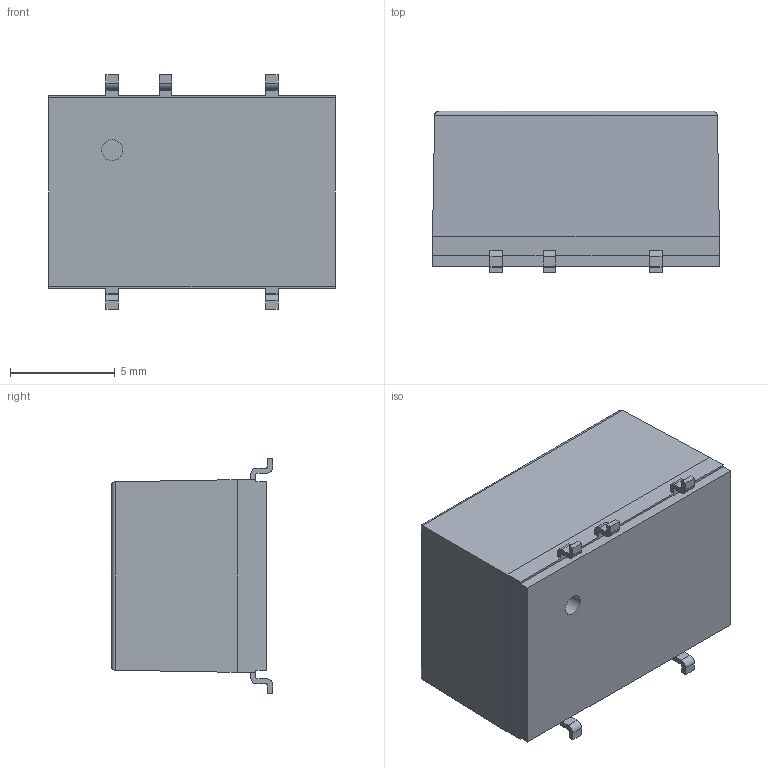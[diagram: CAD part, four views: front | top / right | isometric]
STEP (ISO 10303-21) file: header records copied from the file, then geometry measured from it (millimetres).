
FILE_DESCRIPTION (( 'STEP AP203' ), '1' );
FILE_NAME ('EC1SA SMD(Single) 2023.07.21.STEP', '2023-07-21T10:16:37', ( '' ), ( '' ), 'SwSTEP 2.0', 'SolidWorks 2020', '' );
FILE_SCHEMA (( 'CONFIG_CONTROL_DESIGN' ));
Length unit declared in the file: millimetre
Products named in the file (1): EC1SA SMD(Single) 2023.07.21
Bounding box: 13.7 x 7.7 x 11.2 mm (x, y, z)
Volume: 346.1 mm3; surface area: 1058.5 mm2
Topology: 1 solids, 1 shells, 315 faces, 842 edges, 545 vertices
Faces by surface type: plane 196, cylinder 63, bspline 48, sphere 6, torus 2
Full cylindrical faces by diameter (mm): 1 x1
Entity records: 13489 total; most frequent: CARTESIAN_POINT 5898, ORIENTED_EDGE 1668, DIRECTION 1358, EDGE_CURVE 834, LINE 614, VECTOR 614, VERTEX_POINT 544, AXIS2_PLACEMENT_3D 372
